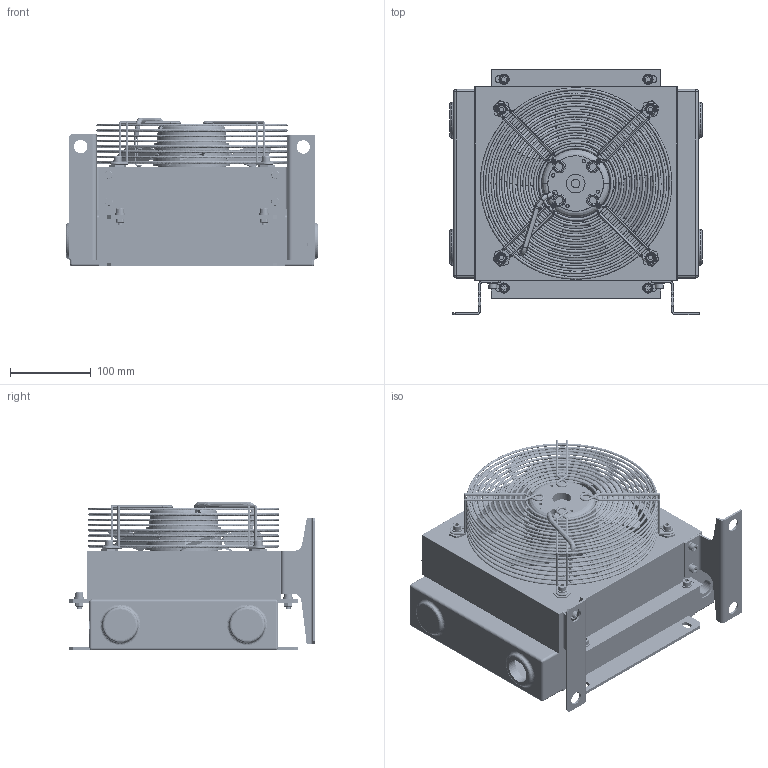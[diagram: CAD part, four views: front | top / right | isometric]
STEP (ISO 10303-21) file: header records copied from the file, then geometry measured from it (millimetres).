
FILE_DESCRIPTION(('STEP AP203'),'2;1');
FILE_NAME('SS201200A-P.stp','2014-10-29T13:33:08',(''),(''),'2012.1.115','THINKDESIGN','');
FILE_SCHEMA(('CONFIG_CONTROL_DESIGN'));
Bounding box: 312 x 303.5 x 183.68 mm (x, y, z)
Volume: 4024460.4 mm3; surface area: 770346.1 mm2
Topology: 50 solids, 50 shells, 1590 faces, 5338 edges, 4400 vertices
Faces by surface type: bspline 756, plane 497, cylinder 337
Full cylindrical faces by diameter (mm): 5 x8, 6 x12, 6.5 x20, 6.75 x4, 7 x4, 8 x4, 10 x12, 12.5 x12, 16.5 x4, 19 x2, 28 x2, 30.5 x2, 220 x1
Entity records: 80926 total; most frequent: CARTESIAN_POINT 48242, DIRECTION 5802, ORIENTED_EDGE 4382, COMPOSITE_CURVE_SEGMENT 3050, VECTOR 2422, LINE 2422, EDGE_CURVE 2191, AXIS2_PLACEMENT_3D 1690
